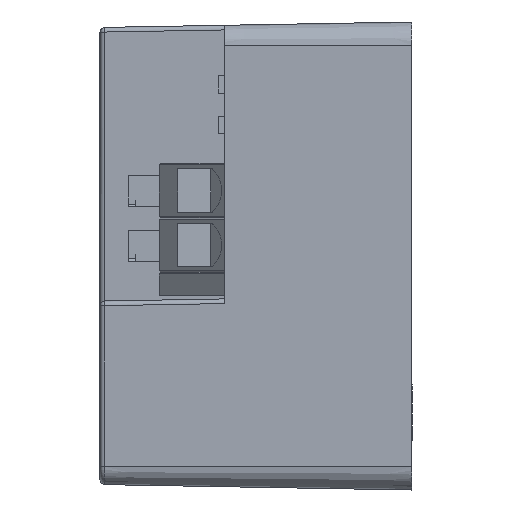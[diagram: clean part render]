
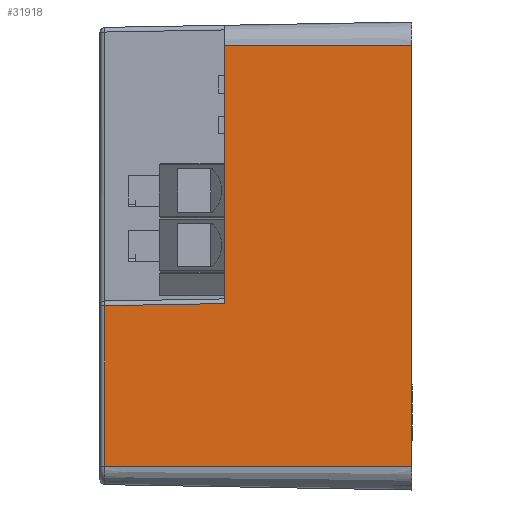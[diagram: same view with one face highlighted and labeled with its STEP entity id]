
A CAD part, left-side view. The second image highlights one B-rep face of the part: STEP entity #31918.
In plain terms, the highlighted planar face has unit normal (-1, 0.018, 0).
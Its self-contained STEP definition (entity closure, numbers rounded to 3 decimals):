
#70=DIRECTION('',(0.,0.,1.));
#71=VECTOR('',#70,27.);
#72=CARTESIAN_POINT('',(-40.,0.,-13.5));
#73=LINE('',#72,#71);
#231=DIRECTION('',(0.,0.,-1.));
#232=VECTOR('',#231,16.55);
#233=CARTESIAN_POINT('',(-39.791,12.,13.5));
#234=LINE('',#233,#232);
#259=DIRECTION('',(0.017,1.,-0.017));
#260=VECTOR('',#259,7.708);
#261=CARTESIAN_POINT('',(-39.791,12.,-3.05));
#262=LINE('',#261,#260);
#266=DIRECTION('',(-0.017,-1.,0.));
#267=VECTOR('',#266,12.002);
#268=CARTESIAN_POINT('',(-39.791,12.,13.5));
#269=LINE('',#268,#267);
#273=DIRECTION('',(-0.017,-1.,0.));
#274=VECTOR('',#273,19.708);
#275=CARTESIAN_POINT('',(-39.656,19.705,-13.5));
#276=LINE('',#275,#274);
#280=DIRECTION('',(0.,0.,1.));
#281=VECTOR('',#280,10.316);
#282=CARTESIAN_POINT('',(-39.656,19.705,-13.5));
#283=LINE('',#282,#281);
#26876=CARTESIAN_POINT('',(-40.,0.,13.5));
#26878=VERTEX_POINT('',#26876);
#26883=CARTESIAN_POINT('',(-40.,0.,-13.5));
#26885=VERTEX_POINT('',#26883);
#26896=CARTESIAN_POINT('',(-39.791,12.,13.5));
#26898=VERTEX_POINT('',#26896);
#26959=CARTESIAN_POINT('',(-39.791,12.,-3.05));
#26960=CARTESIAN_POINT('',(-39.656,19.705,
-3.184));
#26961=VERTEX_POINT('',#26959);
#26962=VERTEX_POINT('',#26960);
#27014=CARTESIAN_POINT('',(-39.656,19.705,
-13.5));
#27015=VERTEX_POINT('',#27014);
#31902=CARTESIAN_POINT('',(-40.,0.,-16.753));
#31903=DIRECTION('',(-1.,0.017,0.));
#31904=DIRECTION('',(0.,0.,-1.));
#31905=AXIS2_PLACEMENT_3D('',#31902,#31903,#31904);
#31906=PLANE('',#31905);
#31908=ORIENTED_EDGE('',*,*,#31907,.F.);
#31909=ORIENTED_EDGE('',*,*,#31880,.F.);
#31910=ORIENTED_EDGE('',*,*,#31870,.T.);
#31911=ORIENTED_EDGE('',*,*,#31811,.F.);
#31913=ORIENTED_EDGE('',*,*,#31912,.F.);
#31915=ORIENTED_EDGE('',*,*,#31914,.T.);
#31916=EDGE_LOOP('',(#31908,#31909,#31910,#31911,#31913,#31915));
#31917=FACE_OUTER_BOUND('',#31916,.F.);
#31918=ADVANCED_FACE('',(#31917),#31906,.T.);
#31811=EDGE_CURVE('',#26885,#26878,#73,.T.);
#31870=EDGE_CURVE('',#26898,#26878,#269,.T.);
#31880=EDGE_CURVE('',#26898,#26961,#234,.T.);
#31907=EDGE_CURVE('',#26961,#26962,#262,.T.);
#31912=EDGE_CURVE('',#27015,#26885,#276,.T.);
#31914=EDGE_CURVE('',#27015,#26962,#283,.T.);
